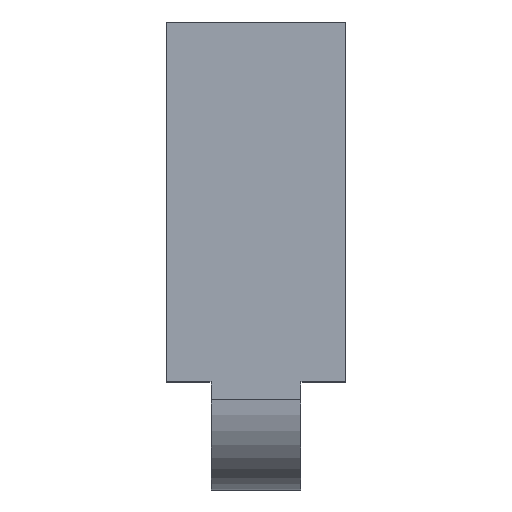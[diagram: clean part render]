
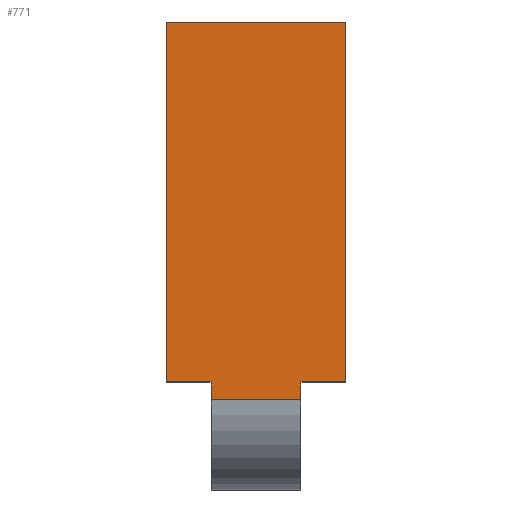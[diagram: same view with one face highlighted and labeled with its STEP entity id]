
A CAD part, top view. The second image highlights one B-rep face of the part: STEP entity #771.
In plain terms, the highlighted planar face has unit normal (0, 0, 1).
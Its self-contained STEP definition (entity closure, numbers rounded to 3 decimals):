
#754=AXIS2_PLACEMENT_3D('Plane Axis2P3D',#751,#752,#753) ;
#43=CARTESIAN_POINT('Vertex',(55.,-20.,0.)) ;
#46=CARTESIAN_POINT('Line Origine',(55.,-21.,0.)) ;
#50=CARTESIAN_POINT('Vertex',(55.,-22.,0.)) ;
#336=CARTESIAN_POINT('Vertex',(60.,20.,0.)) ;
#339=CARTESIAN_POINT('Line Origine',(60.,0.,0.)) ;
#343=CARTESIAN_POINT('Vertex',(60.,-20.,0.)) ;
#427=CARTESIAN_POINT('Line Origine',(57.5,-20.,0.)) ;
#451=CARTESIAN_POINT('Line Origine',(30.,-22.,0.)) ;
#455=CARTESIAN_POINT('Vertex',(45.,-22.,0.)) ;
#571=CARTESIAN_POINT('Line Origine',(45.,-21.,0.)) ;
#575=CARTESIAN_POINT('Vertex',(45.,-20.,0.)) ;
#671=CARTESIAN_POINT('Line Origine',(50.,20.,0.)) ;
#675=CARTESIAN_POINT('Vertex',(40.,20.,0.)) ;
#708=CARTESIAN_POINT('Line Origine',(42.5,-20.,0.)) ;
#712=CARTESIAN_POINT('Vertex',(40.,-20.,0.)) ;
#751=CARTESIAN_POINT('Axis2P3D Location',(0.,0.,0.)) ;
#756=CARTESIAN_POINT('Line Origine',(40.,0.,0.)) ;
#47=DIRECTION('Vector Direction',(0.,1.,0.)) ;
#340=DIRECTION('Vector Direction',(0.,1.,0.)) ;
#428=DIRECTION('Vector Direction',(-1.,0.,0.)) ;
#452=DIRECTION('Vector Direction',(1.,0.,0.)) ;
#572=DIRECTION('Vector Direction',(0.,1.,0.)) ;
#672=DIRECTION('Vector Direction',(1.,0.,0.)) ;
#709=DIRECTION('Vector Direction',(1.,0.,0.)) ;
#752=DIRECTION('Axis2P3D Direction',(0.,0.,1.)) ;
#753=DIRECTION('Axis2P3D XDirection',(1.,0.,0.)) ;
#757=DIRECTION('Vector Direction',(0.,-1.,0.)) ;
#48=VECTOR('Line Direction',#47,1.) ;
#341=VECTOR('Line Direction',#340,1.) ;
#429=VECTOR('Line Direction',#428,1.) ;
#453=VECTOR('Line Direction',#452,1.) ;
#573=VECTOR('Line Direction',#572,1.) ;
#673=VECTOR('Line Direction',#672,1.) ;
#710=VECTOR('Line Direction',#709,1.) ;
#758=VECTOR('Line Direction',#757,1.) ;
#762=ORIENTED_EDGE('',*,*,#714,.T.) ;
#763=ORIENTED_EDGE('',*,*,#577,.T.) ;
#764=ORIENTED_EDGE('',*,*,#457,.T.) ;
#765=ORIENTED_EDGE('',*,*,#52,.F.) ;
#766=ORIENTED_EDGE('',*,*,#431,.T.) ;
#767=ORIENTED_EDGE('',*,*,#345,.T.) ;
#768=ORIENTED_EDGE('',*,*,#677,.T.) ;
#769=ORIENTED_EDGE('',*,*,#760,.F.) ;
#771=ADVANCED_FACE('\X2\96F64EF651E04F554F53\X0\',(#770),#755,.T.) ;
#52=EDGE_CURVE('',#44,#51,#49,.F.) ;
#345=EDGE_CURVE('',#344,#337,#342,.T.) ;
#431=EDGE_CURVE('',#44,#344,#430,.F.) ;
#457=EDGE_CURVE('',#456,#51,#454,.T.) ;
#577=EDGE_CURVE('',#576,#456,#574,.F.) ;
#677=EDGE_CURVE('',#337,#676,#674,.F.) ;
#714=EDGE_CURVE('',#713,#576,#711,.T.) ;
#760=EDGE_CURVE('',#713,#676,#759,.F.) ;
#761=EDGE_LOOP('',(#762,#763,#764,#765,#766,#767,#768,#769)) ;
#770=FACE_OUTER_BOUND('',#761,.T.) ;
#49=LINE('Line',#46,#48) ;
#342=LINE('Line',#339,#341) ;
#430=LINE('Line',#427,#429) ;
#454=LINE('Line',#451,#453) ;
#574=LINE('Line',#571,#573) ;
#674=LINE('Line',#671,#673) ;
#711=LINE('Line',#708,#710) ;
#759=LINE('Line',#756,#758) ;
#755=PLANE('',#754) ;
#44=VERTEX_POINT('',#43) ;
#51=VERTEX_POINT('',#50) ;
#337=VERTEX_POINT('',#336) ;
#344=VERTEX_POINT('',#343) ;
#456=VERTEX_POINT('',#455) ;
#576=VERTEX_POINT('',#575) ;
#676=VERTEX_POINT('',#675) ;
#713=VERTEX_POINT('',#712) ;
